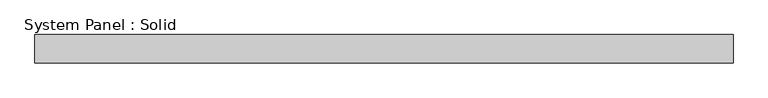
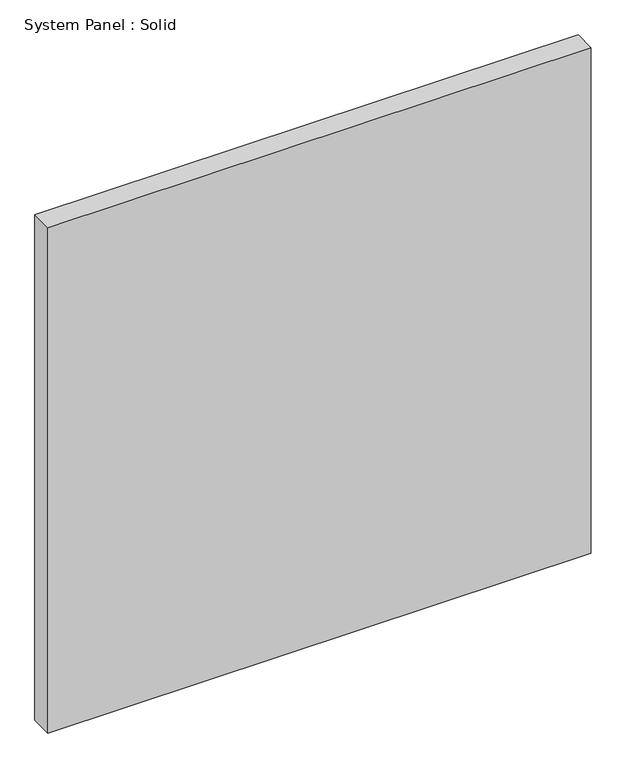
"""IFC4 building model written with IfcOpenShell, lengths in millimetres: plate geometry, System Panel : Solid."""

from ifc_helpers import new_model, si_unit, origin, origin_with_axes, place, context, project, spatial, polyline, outline, extrude, source, transform, mapped, element, save


def system_panel_solid_7096e89f(model_context):
    return source(origin(), model_context, "Body", "SweptSolid", [
        extrude(outline(polyline([(737.0, -10.5), (-737.0, -10.5), (-737.0, 49.5), (737.0, 49.5), (737.0, -10.5)])), origin_with_axes(), (0.0, 0.0, 1.0), 1448.7250795),
    ])


if __name__ == "__main__":
    model = new_model("IFC4")
    model_context = context("Model", 3, world=origin())
    ifc_project = project(units=[si_unit("LENGTHUNIT", "METRE", prefix="MILLI")], contexts=[model_context])
    site = spatial("IfcSite", under=ifc_project)
    building = spatial("IfcBuilding", under=site)
    placement = place(None, origin())
    system_panel_solid_shape = system_panel_solid_7096e89f(model_context)
    element("IfcPlate", 1, ObjectType="System Panel : Solid", at=placement, inside=building, context=model_context, shape_type="MappedRepresentation", body=[
        mapped(system_panel_solid_shape, transform((0.0, 0.0, 0.0), x_axis=(1.0, 0.0, 0.0), y_axis=(0.0, 1.0, 0.0), z_axis=(0.0, 0.0, 1.0))),
    ])
    save(model, "model.ifc")
